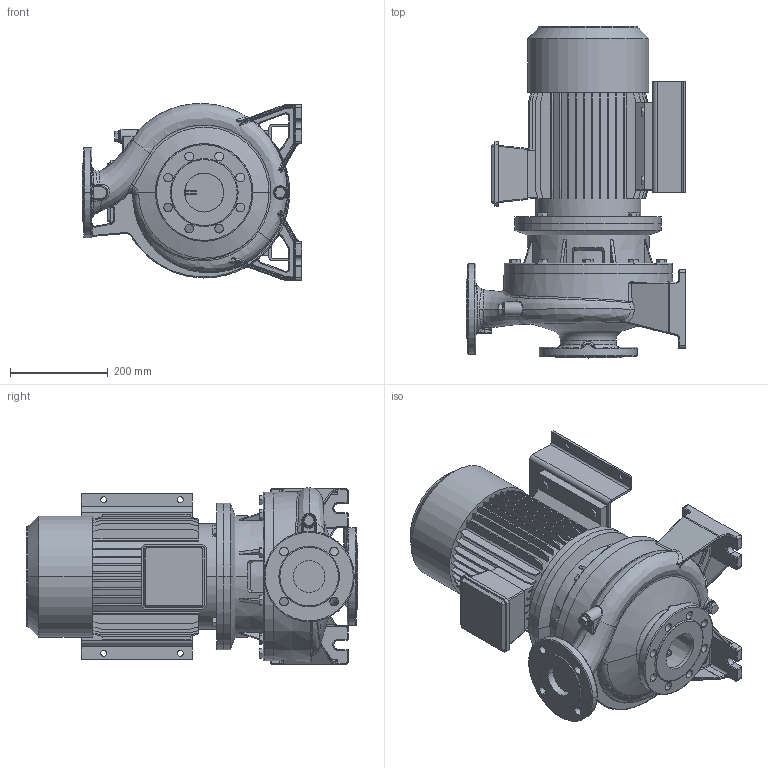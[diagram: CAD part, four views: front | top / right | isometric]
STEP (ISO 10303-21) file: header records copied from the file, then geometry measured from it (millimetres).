
FILE_DESCRIPTION((''),'2;1');
FILE_NAME('3S4_65-250_5_5_IE3_ASM','2016-09-24T',('rosa'),('"Ebara Pumps Europe +39.444.706811"'),'PRO/ENGINEER BY PARAMETRIC TECHNOLOGY CORPORATION, 2012130','PRO/ENGINEER BY PARAMETRIC TECHNOLOGY CORPORATION, 2012130','');
FILE_SCHEMA(('AUTOMOTIVE_DESIGN { 1 0 10303 214 1 1 1 1 }'));
Length unit declared in the file: millimetre
Products named in the file (7): MOTORE_132_5_5_KW_4POLI_B35; SOSTEGNO_72191_132S; M10X22; ANELLO_10074; SUPPORTO_3S_266_100_112; CORPO_POMPA_65-250; 3S4_65-250_5_5_IE3_ASM
Assembly tree (9 placements, depth 2):
  3S4_65-250_5_5_IE3_ASM
    MOTORE_132_5_5_KW_4POLI_B35
    SOSTEGNO_72191_132S
    M10X22  x4
    ANELLO_10074
    SUPPORTO_3S_266_100_112
    CORPO_POMPA_65-250
Bounding box: 450 x 680 x 362.24 mm (x, y, z)
Volume: 34705569.4 mm3; surface area: 2075042.5 mm2
Topology: 9 solids, 9 shells, 1387 faces, 3384 edges, 2091 vertices
Faces by surface type: plane 661, cylinder 296, bspline 235, torus 113, cone 61, sphere 21
Entity records: 62645 total; most frequent: CARTESIAN_POINT 21507, ORIENTED_EDGE 6492, DIRECTION 5843, PRESENTATION_STYLE_ASSIGNMENT 3252, STYLED_ITEM 3252, CURVE_STYLE 3246, EDGE_CURVE 3246, AXIS2_PLACEMENT_3D 2083
